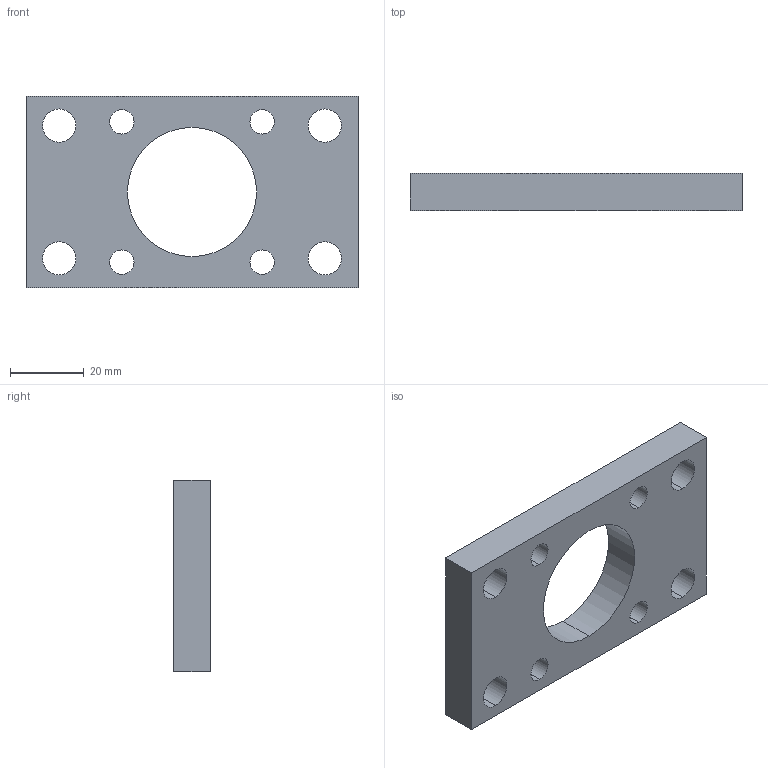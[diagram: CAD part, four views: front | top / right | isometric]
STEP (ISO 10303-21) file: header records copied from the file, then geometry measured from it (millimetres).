
FILE_DESCRIPTION (( 'STEP AP214' ), '1' );
FILE_NAME ('FLICR-040.STEP', '2012-11-07T13:14:59', ( '' ), ( '' ), 'SwSTEP 2.0', 'SolidWorks 2009', '' );
FILE_SCHEMA (( 'AUTOMOTIVE_DESIGN' ));
Length unit declared in the file: millimetre
Products named in the file (1): FLICR-040
Bounding box: 90 x 10 x 52 mm (x, y, z)
Volume: 32049.3 mm3; surface area: 12829.5 mm2
Topology: 1 solids, 1 shells, 36 faces, 90 edges, 60 vertices
Faces by surface type: cylinder 26, plane 10
Entity records: 1176 total; most frequent: DIRECTION 216, CARTESIAN_POINT 187, ORIENTED_EDGE 180, EDGE_CURVE 90, AXIS2_PLACEMENT_3D 89, VERTEX_POINT 60, EDGE_LOOP 58, CIRCLE 52
